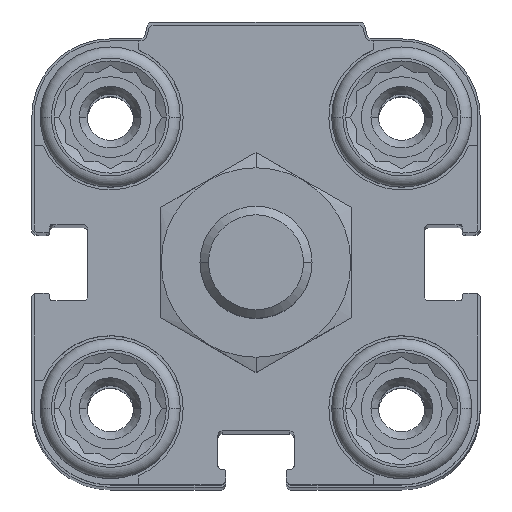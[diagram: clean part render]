
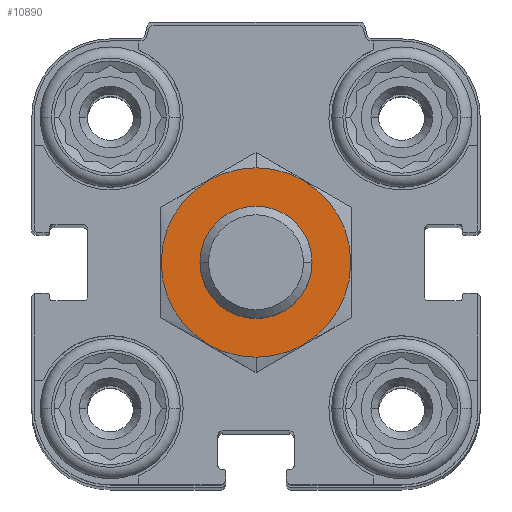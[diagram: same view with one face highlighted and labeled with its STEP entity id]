
A CAD part, top view. The second image highlights one B-rep face of the part: STEP entity #10890.
In plain terms, the highlighted planar face has unit normal (0, 0, 1).
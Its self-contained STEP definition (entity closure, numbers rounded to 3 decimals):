
#469 = VERTEX_POINT ( 'NONE', #4240 ) ;
#2162 = CIRCLE ( 'NONE', #11893, 5. ) ;
#2986 = DIRECTION ( 'NONE',  ( 0., 0., -1. ) ) ;
#3576 = DIRECTION ( 'NONE',  ( 0., 0., -1. ) ) ;
#3600 = EDGE_CURVE ( 'NONE', #18138, #469, #5431, .T. ) ;
#4221 = AXIS2_PLACEMENT_3D ( 'NONE', #10384, #16552, #8858 ) ;
#4240 = CARTESIAN_POINT ( 'NONE',  ( 0., -8.45, 14.5 ) ) ;
#4557 = CIRCLE ( 'NONE', #15888, 5. ) ;
#4900 = CARTESIAN_POINT ( 'NONE',  ( 0., 0., 14.5 ) ) ;
#5431 = CIRCLE ( 'NONE', #12235, 8.45 ) ;
#6406 = ORIENTED_EDGE ( 'NONE', *, *, #10572, .T. ) ;
#6524 = DIRECTION ( 'NONE',  ( 0., -1., 0. ) ) ;
#6659 = CARTESIAN_POINT ( 'NONE',  ( 0., 0., 14.5 ) ) ;
#7058 = EDGE_LOOP ( 'NONE', ( #6406, #20035 ) ) ;
#8489 = DIRECTION ( 'NONE',  ( 0., -1., 0. ) ) ;
#8858 = DIRECTION ( 'NONE',  ( 0., -1., 0. ) ) ;
#9600 = ORIENTED_EDGE ( 'NONE', *, *, #3600, .F. ) ;
#9893 = CARTESIAN_POINT ( 'NONE',  ( 0., 0., 14.5 ) ) ;
#10384 = CARTESIAN_POINT ( 'NONE',  ( 0., 0., 14.5 ) ) ;
#10572 = EDGE_CURVE ( 'NONE', #11766, #11378, #4557, .T. ) ;
#10612 = CARTESIAN_POINT ( 'NONE',  ( 0., 5., 14.5 ) ) ;
#10874 = DIRECTION ( 'NONE',  ( 0., -1., 0. ) ) ;
#10890 = ADVANCED_FACE ( 'NONE', ( #18983, #11405 ), #19194, .F. ) ;
#11378 = VERTEX_POINT ( 'NONE', #13194 ) ;
#11405 = FACE_BOUND ( 'NONE', #7058, .T. ) ;
#11766 = VERTEX_POINT ( 'NONE', #10612 ) ;
#11893 = AXIS2_PLACEMENT_3D ( 'NONE', #4900, #2986, #6524 ) ;
#12030 = AXIS2_PLACEMENT_3D ( 'NONE', #9893, #3576, #17767 ) ;
#12235 = AXIS2_PLACEMENT_3D ( 'NONE', #6659, #14010, #10874 ) ;
#13047 = CARTESIAN_POINT ( 'NONE',  ( 0., 0., 14.5 ) ) ;
#13194 = CARTESIAN_POINT ( 'NONE',  ( 0., -5., 14.5 ) ) ;
#14010 = DIRECTION ( 'NONE',  ( 0., 0., -1. ) ) ;
#15716 = ORIENTED_EDGE ( 'NONE', *, *, #16968, .F. ) ;
#15888 = AXIS2_PLACEMENT_3D ( 'NONE', #13047, #17689, #8489 ) ;
#16211 = CIRCLE ( 'NONE', #4221, 8.45 ) ;
#16552 = DIRECTION ( 'NONE',  ( 0., 0., -1. ) ) ;
#16968 = EDGE_CURVE ( 'NONE', #469, #18138, #16211, .T. ) ;
#17689 = DIRECTION ( 'NONE',  ( 0., 0., -1. ) ) ;
#17767 = DIRECTION ( 'NONE',  ( 0., -1., 0. ) ) ;
#18138 = VERTEX_POINT ( 'NONE', #18303 ) ;
#18303 = CARTESIAN_POINT ( 'NONE',  ( 0., 8.45, 14.5 ) ) ;
#18983 = FACE_OUTER_BOUND ( 'NONE', #19555, .T. ) ;
#19194 = PLANE ( 'NONE',  #12030 ) ;
#19555 = EDGE_LOOP ( 'NONE', ( #15716, #9600 ) ) ;
#19789 = EDGE_CURVE ( 'NONE', #11378, #11766, #2162, .T. ) ;
#20035 = ORIENTED_EDGE ( 'NONE', *, *, #19789, .T. ) ;
